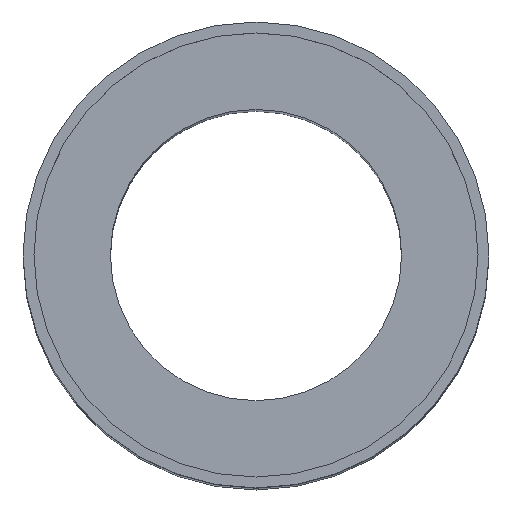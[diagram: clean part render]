
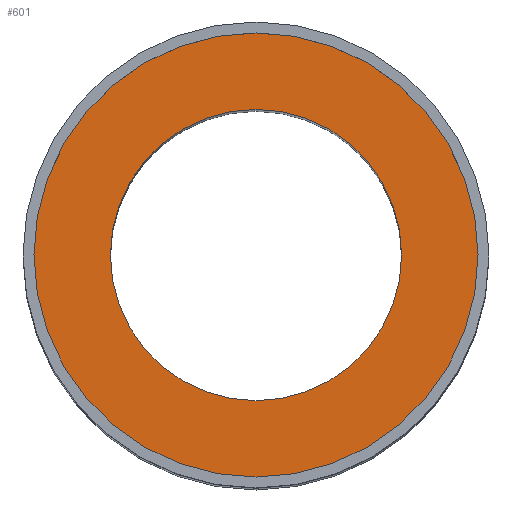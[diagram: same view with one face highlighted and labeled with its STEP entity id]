
A CAD part, top view. The second image highlights one B-rep face of the part: STEP entity #601.
In plain terms, the highlighted planar face has unit normal (0, 0, 1).
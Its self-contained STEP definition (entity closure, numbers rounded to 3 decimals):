
#135=CARTESIAN_POINT('',(-15.25,0.,79.0));
#136=VERTEX_POINT('',#135);
#152=CARTESIAN_POINT('',(15.25,0.,79.0));
#153=VERTEX_POINT('',#152);
#160=CARTESIAN_POINT('',(0.0,0.0,79.0));
#161=DIRECTION('',(0.0,0.0,-1.0));
#162=DIRECTION('',(-1.0,0.0,0.0));
#163=AXIS2_PLACEMENT_3D('',#160,#161,#162);
#164=CIRCLE('',#163,15.25);
#165=EDGE_CURVE('',#153,#136,#164,.T.);
#175=CARTESIAN_POINT('',(-10.0,0.,79.0));
#176=VERTEX_POINT('',#175);
#185=CARTESIAN_POINT('',(10.0,0.,79.0));
#186=VERTEX_POINT('',#185);
#187=CARTESIAN_POINT('',(0.0,0.0,79.0));
#188=DIRECTION('',(0.0,0.0,-1.0));
#189=DIRECTION('',(-1.0,0.0,0.0));
#190=AXIS2_PLACEMENT_3D('',#187,#188,#189);
#191=CIRCLE('',#190,10.0);
#192=EDGE_CURVE('',#186,#176,#191,.T.);
#552=CARTESIAN_POINT('',(0.0,0.0,79.0));
#553=DIRECTION('',(0.0,0.0,-1.0));
#554=DIRECTION('',(-1.0,0.0,0.0));
#555=AXIS2_PLACEMENT_3D('',#552,#553,#554);
#556=CIRCLE('',#555,10.0);
#557=EDGE_CURVE('',#176,#186,#556,.T.);
#582=CARTESIAN_POINT('',(0.0,0.0,79.0));
#583=DIRECTION('',(0.0,0.0,-1.0));
#584=DIRECTION('',(-1.0,0.0,0.0));
#585=AXIS2_PLACEMENT_3D('',#582,#583,#584);
#586=PLANE('',#585);
#587=ORIENTED_EDGE('',*,*,#165,.F.);
#588=CARTESIAN_POINT('',(0.0,0.0,79.0));
#589=DIRECTION('',(0.0,0.0,-1.0));
#590=DIRECTION('',(-1.0,0.0,0.0));
#591=AXIS2_PLACEMENT_3D('',#588,#589,#590);
#592=CIRCLE('',#591,15.25);
#593=EDGE_CURVE('',#136,#153,#592,.T.);
#594=ORIENTED_EDGE('',*,*,#593,.F.);
#595=EDGE_LOOP('',(#587,#594));
#596=FACE_OUTER_BOUND('',#595,.T.);
#597=ORIENTED_EDGE('',*,*,#192,.T.);
#598=ORIENTED_EDGE('',*,*,#557,.T.);
#599=EDGE_LOOP('',(#597,#598));
#600=FACE_BOUND('',#599,.T.);
#601=ADVANCED_FACE('',(#596,#600),#586,.F.);
